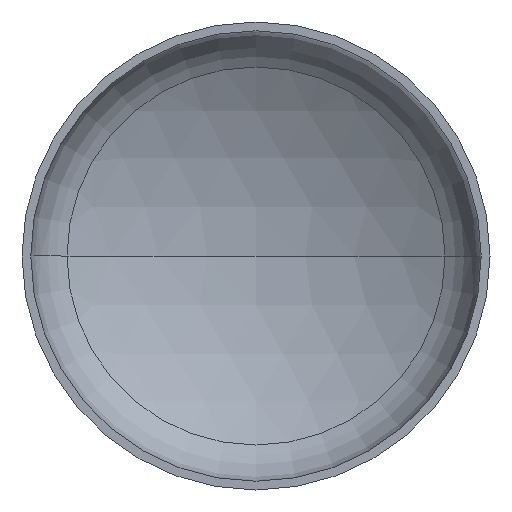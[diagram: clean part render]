
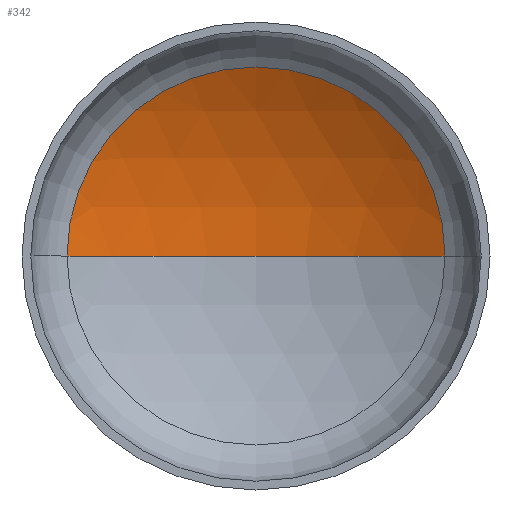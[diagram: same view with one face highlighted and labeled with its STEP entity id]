
A CAD part, front view. The second image highlights one B-rep face of the part: STEP entity #342.
In plain terms, the highlighted spherical face has radius 640 mm.
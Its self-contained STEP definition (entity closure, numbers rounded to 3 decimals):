
#3 = AXIS2_PLACEMENT_3D ( 'NONE', #305, #158, #141 ) ;
#18 = CIRCLE ( 'NONE', #33, 640. ) ;
#33 = AXIS2_PLACEMENT_3D ( 'NONE', #296, #163, #186 ) ;
#34 = ORIENTED_EDGE ( 'NONE', *, *, #63, .T. ) ;
#35 = AXIS2_PLACEMENT_3D ( 'NONE', #318, #310, #309 ) ;
#37 = AXIS2_PLACEMENT_3D ( 'NONE', #367, #372, #308 ) ;
#44 = EDGE_LOOP ( 'NONE', ( #199, #34, #177 ) ) ;
#62 = EDGE_CURVE ( 'NONE', #68, #334, #369, .T. ) ;
#63 = EDGE_CURVE ( 'NONE', #131, #68, #250, .T. ) ;
#64 = EDGE_CURVE ( 'NONE', #131, #334, #18, .T. ) ;
#68 = VERTEX_POINT ( 'NONE', #301 ) ;
#131 = VERTEX_POINT ( 'NONE', #284 ) ;
#141 = DIRECTION ( 'NONE',  ( -1., 0., 0. ) ) ;
#158 = DIRECTION ( 'NONE',  ( 0., 0., -1. ) ) ;
#163 = DIRECTION ( 'NONE',  ( 0., 0., 1. ) ) ;
#166 = CARTESIAN_POINT ( 'NONE',  ( -323.107, 152.901, 0. ) ) ;
#177 = ORIENTED_EDGE ( 'NONE', *, *, #62, .T. ) ;
#186 = DIRECTION ( 'NONE',  ( 1., 0., 0. ) ) ;
#199 = ORIENTED_EDGE ( 'NONE', *, *, #64, .F. ) ;
#250 = CIRCLE ( 'NONE', #35, 640. ) ;
#264 = FACE_OUTER_BOUND ( 'NONE', #44, .T. ) ;
#284 = CARTESIAN_POINT ( 'NONE',  ( 0., 240.45, 0. ) ) ;
#296 = CARTESIAN_POINT ( 'NONE',  ( 0., -399.55, 0. ) ) ;
#301 = CARTESIAN_POINT ( 'NONE',  ( 323.107, 152.901, 0. ) ) ;
#305 = CARTESIAN_POINT ( 'NONE',  ( 0., -399.55, 0. ) ) ;
#308 = DIRECTION ( 'NONE',  ( 1., 0., 0. ) ) ;
#309 = DIRECTION ( 'NONE',  ( -1., 0., 0. ) ) ;
#310 = DIRECTION ( 'NONE',  ( 0., 0., -1. ) ) ;
#318 = CARTESIAN_POINT ( 'NONE',  ( 0., -399.55, 0. ) ) ;
#334 = VERTEX_POINT ( 'NONE', #166 ) ;
#342 = ADVANCED_FACE ( 'NONE', ( #264 ), #378, .F. ) ;
#367 = CARTESIAN_POINT ( 'NONE',  ( 0., 152.901, 0. ) ) ;
#369 = CIRCLE ( 'NONE', #37, 323.107 ) ;
#372 = DIRECTION ( 'NONE',  ( 0., -1., 0. ) ) ;
#378 = SPHERICAL_SURFACE ( 'NONE', #3, 640. ) ;
